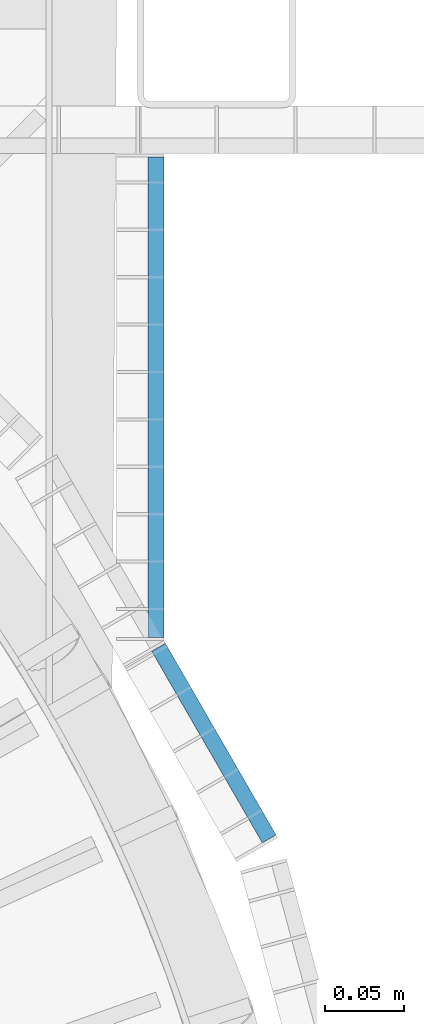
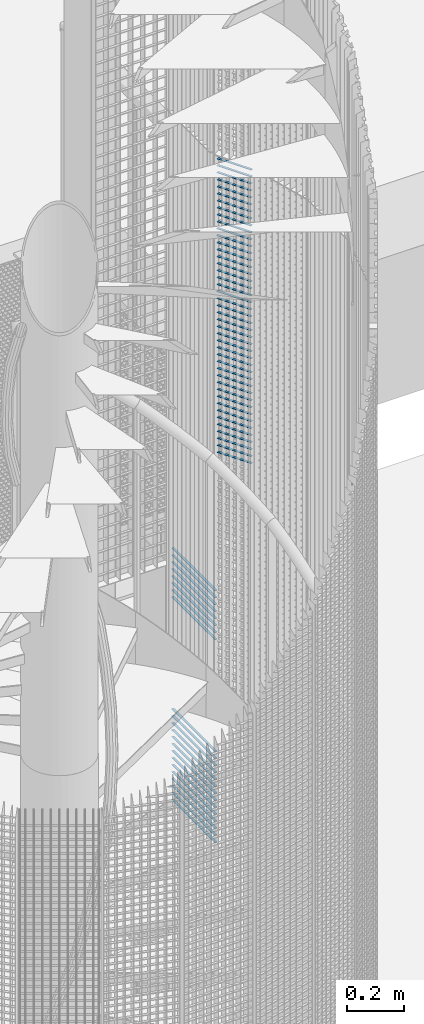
# One storey, part 286 of 1183: 65 beams, 2 elements without a shape of their own.
"""IFC2X3 building model written with IfcOpenShell, lengths in millimetres."""

import ifcopenshell
import ifcopenshell.guid

model = None  # the IFC model being written
_history = None  # IfcOwnerHistory: only IFC2X3 demands one
_inside = {}  # id of a spatial element -> (the spatial element, [elements in it])
_under = {}  # id of a project, library or spatial element -> (it, [spatial elements below it])
_declared = {}  # id of a project -> (the project, [libraries it declares])
_typed = {}  # id of a type object -> (the type object, [elements of that type])
_made_of = {}  # id of a material, layer set ... -> (it, [elements and type objects made of it])


def new_model(schema):
    """Start an empty IFC model of exactly this schema.

    Asked for "IFC4X3", IfcOpenShell would pick the latest addendum, in which some entities
    have other attributes; the version numbers below select the first issue.
    IFC2X3 requires an IfcOwnerHistory on every rooted entity: one is made here for all.
    """
    global model, _history
    if schema == "IFC4X3":
        model = ifcopenshell.file(schema_version=(4, 3, 0, 0))
    else:
        model = ifcopenshell.file(schema=schema)
    _inside.clear()
    _under.clear()
    _declared.clear()
    _typed.clear()
    _made_of.clear()
    _history = None
    if model.schema == "IFC2X3":
        org = make("IfcOrganization", Name="unknown")
        user = make(
            "IfcPersonAndOrganization",
            ThePerson=make("IfcPerson", FamilyName="unknown"),
            TheOrganization=org,
        )
        app = make(
            "IfcApplication",
            ApplicationDeveloper=org,
            Version="unknown",
            ApplicationFullName="unknown",
            ApplicationIdentifier="unknown",
        )
        _history = make(
            "IfcOwnerHistory",
            OwningUser=user,
            OwningApplication=app,
            ChangeAction="ADDED",
            CreationDate=0,
        )
    return model


def make(cls, **values):
    """One entity of the class cls with the attributes given. An attribute that is None is left unset."""
    return model.create_entity(
        cls, **{name: value for name, value in values.items() if value is not None}
    )


def rooted(cls, **values):
    """An entity with a GlobalId (a new one), such as an element, a storey or a relation."""
    return make(cls, GlobalId=ifcopenshell.guid.new(), OwnerHistory=_history, **values)


def si_unit(unit_type, name, prefix=None):
    """IfcSIUnit, for example si_unit("LENGTHUNIT", "METRE", prefix="MILLI")."""
    return make("IfcSIUnit", UnitType=unit_type, Prefix=prefix, Name=name)


def assignment(units):
    """IfcUnitAssignment: the units of a project."""
    return None if units is None else make("IfcUnitAssignment", Units=units)


def point(xyz):
    """IfcCartesianPoint."""
    return None if xyz is None else make("IfcCartesianPoint", Coordinates=xyz)


def direction(xyz):
    """IfcDirection."""
    return None if xyz is None else make("IfcDirection", DirectionRatios=xyz)


def frame(location, z_axis=None, x_axis=None):
    """IfcAxis2Placement3D, a coordinate frame: its origin and axes. An axis left out is left unset."""
    return make(
        "IfcAxis2Placement3D",
        Location=point(location),
        Axis=direction(z_axis),
        RefDirection=direction(x_axis),
    )


def frame_2d(location, x_axis=None):
    """IfcAxis2Placement2D, a coordinate frame in the plane: its origin and x axis."""
    return make(
        "IfcAxis2Placement2D", Location=point(location), RefDirection=direction(x_axis)
    )


def origin_with_axes():
    """The frame at (0, 0, 0) with the z axis (0, 0, 1) and the x axis (1, 0, 0) written out."""
    return frame((0.0, 0.0, 0.0), z_axis=(0.0, 0.0, 1.0), x_axis=(1.0, 0.0, 0.0))


def origin_2d_with_axis():
    """The frame at (0, 0) in the plane with the x axis (1, 0) written out."""
    return frame_2d((0.0, 0.0), x_axis=(1.0, 0.0))


def place(relative_to, where):
    """IfcLocalPlacement: puts the frame where relative to a parent placement (None: the world)."""
    return make(
        "IfcLocalPlacement", PlacementRelTo=relative_to, RelativePlacement=where
    )


def context(
    kind, dimensions, precision=None, world=None, true_north=None, identifier=None
):
    """IfcGeometricRepresentationContext, for example the 3D "Model" context."""
    return make(
        "IfcGeometricRepresentationContext",
        ContextIdentifier=identifier,
        ContextType=kind,
        CoordinateSpaceDimension=dimensions,
        Precision=precision,
        WorldCoordinateSystem=world,
        TrueNorth=true_north,
    )


def subcontext(parent, identifier, kind, view, scale=None):
    """IfcGeometricRepresentationSubContext, for example "Body" below "Model"."""
    return make(
        "IfcGeometricRepresentationSubContext",
        ContextIdentifier=identifier,
        ContextType=kind,
        ParentContext=parent,
        TargetScale=scale,
        TargetView=view,
    )


def project(units=None, contexts=None):
    """IfcProject with its units and contexts."""
    return rooted(
        "IfcProject",
        Name="project",
        RepresentationContexts=contexts,
        UnitsInContext=assignment(units),
    )


def spatial(cls, under=None, at=None, **own):
    """A site, building, storey or space (cls), placed at a placement, below another one or the project."""
    s = rooted(cls, ObjectPlacement=at, **own)
    if under is not None:
        _under.setdefault(under.id(), (under, []))[1].append(s)
    return s


def profile(cls, at=None, kind="AREA", **sizes):
    """A parametric profile (cls). Its sizes go by their IFC names, for example OverallWidth=200.0."""
    return make(cls, ProfileType=kind, Position=at, **sizes)


def rectangle(**sizes):
    """IfcRectangleProfileDef."""
    return profile("IfcRectangleProfileDef", **sizes)


def extrude(swept, where, along, depth):
    """IfcExtrudedAreaSolid: the profile swept, set in the frame where, extruded along a direction by depth."""
    return make(
        "IfcExtrudedAreaSolid",
        SweptArea=swept,
        Position=where,
        ExtrudedDirection=direction(along),
        Depth=depth,
    )


def shape(context_of_items, identifier, shape_type, items):
    """IfcShapeRepresentation: the items that make up one representation, for example the "Body"."""
    return make(
        "IfcShapeRepresentation",
        ContextOfItems=context_of_items,
        RepresentationIdentifier=identifier,
        RepresentationType=shape_type,
        Items=items,
    )


def material(Name=None, Category=None):
    """IfcMaterial."""
    return make("IfcMaterial", Name=Name, Category=Category)


def made_of(thing, what):
    """Note that an element or type object is made of a material, layer set ...; save() writes the relation."""
    if what is not None:
        _made_of.setdefault(what.id(), (what, []))[1].append(thing)
    return thing


def type_object(cls, material=None, **own):
    """A type object (cls), such as IfcWallType, which elements share."""
    return made_of(rooted(cls, **own), material)


def element(
    cls,
    number,
    at=None,
    inside=None,
    cuts=None,
    type_object=None,
    material=None,
    context=None,
    identifier="Body",
    shape_type=None,
    held_by="IfcProductDefinitionShape",
    body=None,
    shapes=None,
    **own,
):
    """One element of the class cls, such as IfcWall. Its Tag is "e" and its number.

    at: its placement. inside: the storey or other place that contains it. cuts: it is an
    opening in that element (IfcRelVoidsElement). A single representation is given by context,
    identifier, shape_type and body (its items); several are given by shapes. held_by: the class
    of the entity that holds the representations. save() writes the other relations.
    """
    e = rooted(cls, Tag="e%d" % number, ObjectPlacement=at, **own)
    if body is not None:
        shapes = [shape(context, identifier, shape_type, body)]
    if shapes is not None:
        e.Representation = make(held_by, Representations=shapes)
    if inside is not None:
        _inside.setdefault(inside.id(), (inside, []))[1].append(e)
    if cuts is not None:
        rooted(
            "IfcRelVoidsElement", RelatingBuildingElement=cuts, RelatedOpeningElement=e
        )
    if type_object is not None:
        _typed.setdefault(type_object.id(), (type_object, []))[1].append(e)
    return made_of(e, material)


def aggregate(whole, parts):
    """IfcRelAggregates: a whole, such as a stair, and the parts it consists of."""
    return rooted("IfcRelAggregates", RelatingObject=whole, RelatedObjects=parts)


def save(model, path):
    """Write the relations noted so far, then the file.

    IfcRelAggregates (storeys below a building ...), IfcRelContainedInSpatialStructure (elements
    in a storey), IfcRelDefinesByType, IfcRelAssociatesMaterial and IfcRelDeclares: one each for
    every whole, place, type object, material and project.
    """
    for whole, parts in _under.values():
        aggregate(whole, parts)
    for where, things in _inside.values():
        rooted(
            "IfcRelContainedInSpatialStructure",
            RelatedElements=things,
            RelatingStructure=where,
        )
    for kind, things in _typed.values():
        rooted("IfcRelDefinesByType", RelatedObjects=things, RelatingType=kind)
    for what, things in _made_of.values():
        rooted("IfcRelAssociatesMaterial", RelatedObjects=things, RelatingMaterial=what)
    for by, libraries in _declared.values():
        rooted("IfcRelDeclares", RelatingContext=by, RelatedDefinitions=libraries)
    model.write(path)


model = new_model("IFC2X3")

# Units and contexts
model_context = context("Model", 3, precision=1e-05, world=origin_with_axes())
body_context = subcontext(model_context, "Body", "Model", "MODEL_VIEW")
ifc_project = project(units=[si_unit("LENGTHUNIT", "METRE", prefix="MILLI"), si_unit("AREAUNIT", "SQUARE_METRE"), si_unit("VOLUMEUNIT", "CUBIC_METRE"), si_unit("MASSUNIT", "GRAM", prefix="KILO"), si_unit("TIMEUNIT", "SECOND"), si_unit("PLANEANGLEUNIT", "RADIAN"), si_unit("SOLIDANGLEUNIT", "STERADIAN"), si_unit("THERMODYNAMICTEMPERATUREUNIT", "DEGREE_CELSIUS"), si_unit("LUMINOUSINTENSITYUNIT", "LUMEN")], contexts=[model_context])

# Site, building, storey
site_placement = place(None, origin_with_axes())
site = spatial("IfcSite", under=ifc_project, at=site_placement, Name="Undefined", CompositionType="ELEMENT")
building_placement = place(site_placement, origin_with_axes())
building = spatial("IfcBuilding", under=site, at=building_placement, Name="Undefined", CompositionType="ELEMENT")
storey_placement = place(building_placement, origin_with_axes())
storey = spatial("IfcBuildingStorey", under=building, at=storey_placement, Name="Undefined", CompositionType="ELEMENT", Elevation=0.0)

# Assembly, beams
assembly_1_placement = place(storey_placement, origin_with_axes())
assembly_1 = element("IfcElementAssembly", 1, at=assembly_1_placement, inside=storey, Name="BORDURE", AssemblyPlace="NOTDEFINED", PredefinedType="NOTDEFINED")
ifc_material = material(Name="STEEL/S235JR")
beam_type = type_object("IfcBeamType", Name="PL2*10", PredefinedType="NOTDEFINED")
beam_1_placement = place(assembly_1_placement, frame((961.586915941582, 564.782669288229, 9420.0), z_axis=(1.0, 0.0, 0.0), x_axis=(0.0, 1.0, 0.0)))
beam_1 = element("IfcBeam", 2, at=beam_1_placement, type_object=beam_type, material=ifc_material, Name="ENTRETOISE", context=body_context, shape_type="SweptSolid", body=[
    extrude(rectangle(XDim=2.0, YDim=10.0, at=origin_2d_with_axis()), frame((303.999999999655, 0.0, 0.0), z_axis=(-1.0, 0.0, 0.0), x_axis=(0.0, -1.0, 0.0)), (0.0, 0.0, 1.0), 304.0),
])
beam_2_placement = place(assembly_1_placement, frame((961.586915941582, 564.782669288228, 9900.0), z_axis=(1.0, 0.0, 0.0), x_axis=(0.0, 1.0, 0.0)))
beam_2 = element("IfcBeam", 3, at=beam_2_placement, type_object=beam_type, material=ifc_material, Name="ENTRETOISE", context=body_context, shape_type="SweptSolid", body=[
    extrude(rectangle(XDim=2.0, YDim=10.0, at=origin_2d_with_axis()), frame((303.999999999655, 0.0, 0.0), z_axis=(-1.0, 0.0, 0.0), x_axis=(0.0, -1.0, 0.0)), (0.0, 0.0, 1.0), 304.0),
])
beam_3_placement = place(assembly_1_placement, frame((961.586915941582, 564.782669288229, 9390.0), z_axis=(1.0, 0.0, 0.0), x_axis=(0.0, 1.0, 0.0)))
beam_3 = element("IfcBeam", 4, at=beam_3_placement, type_object=beam_type, material=ifc_material, Name="ENTRETOISE", context=body_context, shape_type="SweptSolid", body=[
    extrude(rectangle(XDim=2.0, YDim=10.0, at=origin_2d_with_axis()), frame((303.999999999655, 0.0, 0.0), z_axis=(-1.0, 0.0, 0.0), x_axis=(0.0, -1.0, 0.0)), (0.0, 0.0, 1.0), 304.0),
])
beam_4_placement = place(assembly_1_placement, frame((961.586915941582, 564.782669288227, 9930.0), z_axis=(1.0, 0.0, 0.0), x_axis=(0.0, 1.0, 0.0)))
beam_4 = element("IfcBeam", 5, at=beam_4_placement, type_object=beam_type, material=ifc_material, Name="ENTRETOISE", context=body_context, shape_type="SweptSolid", body=[
    extrude(rectangle(XDim=2.0, YDim=10.0, at=origin_2d_with_axis()), frame((303.999999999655, 0.0, 0.0), z_axis=(-1.0, 0.0, 0.0), x_axis=(0.0, -1.0, 0.0)), (0.0, 0.0, 1.0), 304.0),
])
beam_5_placement = place(assembly_1_placement, frame((961.586915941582, 564.782669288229, 9360.0), z_axis=(1.0, 0.0, 0.0), x_axis=(0.0, 1.0, 0.0)))
beam_5 = element("IfcBeam", 6, at=beam_5_placement, type_object=beam_type, material=ifc_material, Name="ENTRETOISE", context=body_context, shape_type="SweptSolid", body=[
    extrude(rectangle(XDim=2.0, YDim=10.0, at=origin_2d_with_axis()), frame((303.999999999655, 0.0, 0.0), z_axis=(-1.0, 0.0, 0.0), x_axis=(0.0, -1.0, 0.0)), (0.0, 0.0, 1.0), 304.0),
])
beam_6_placement = place(assembly_1_placement, frame((961.586915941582, 564.782669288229, 9330.0), z_axis=(1.0, 0.0, 0.0), x_axis=(0.0, 1.0, 0.0)))
beam_6 = element("IfcBeam", 7, at=beam_6_placement, type_object=beam_type, material=ifc_material, Name="ENTRETOISE", context=body_context, shape_type="SweptSolid", body=[
    extrude(rectangle(XDim=2.0, YDim=10.0, at=origin_2d_with_axis()), frame((303.999999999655, 0.0, 0.0), z_axis=(-1.0, 0.0, 0.0), x_axis=(0.0, -1.0, 0.0)), (0.0, 0.0, 1.0), 304.0),
])
beam_7_placement = place(assembly_1_placement, frame((961.586915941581, 564.782669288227, 9960.0), z_axis=(1.0, 0.0, 0.0), x_axis=(0.0, 1.0, 0.0)))
beam_7 = element("IfcBeam", 8, at=beam_7_placement, type_object=beam_type, material=ifc_material, Name="ENTRETOISE", context=body_context, shape_type="SweptSolid", body=[
    extrude(rectangle(XDim=2.0, YDim=10.0, at=origin_2d_with_axis()), frame((303.999999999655, 0.0, 0.0), z_axis=(-1.0, 0.0, 0.0), x_axis=(0.0, -1.0, 0.0)), (0.0, 0.0, 1.0), 304.0),
])
beam_8_placement = place(assembly_1_placement, frame((961.586915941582, 564.782669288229, 9300.0), z_axis=(1.0, 0.0, 0.0), x_axis=(0.0, 1.0, 0.0)))
beam_8 = element("IfcBeam", 9, at=beam_8_placement, type_object=beam_type, material=ifc_material, Name="ENTRETOISE", context=body_context, shape_type="SweptSolid", body=[
    extrude(rectangle(XDim=2.0, YDim=10.0, at=origin_2d_with_axis()), frame((303.999999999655, 0.0, 0.0), z_axis=(-1.0, 0.0, 0.0), x_axis=(0.0, -1.0, 0.0)), (0.0, 0.0, 1.0), 304.0),
])
beam_9_placement = place(assembly_1_placement, frame((961.586915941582, 564.78266928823, 9270.0), z_axis=(1.0, 0.0, 0.0), x_axis=(0.0, 1.0, 0.0)))
beam_9 = element("IfcBeam", 10, at=beam_9_placement, type_object=beam_type, material=ifc_material, Name="ENTRETOISE", context=body_context, shape_type="SweptSolid", body=[
    extrude(rectangle(XDim=2.0, YDim=10.0, at=origin_2d_with_axis()), frame((303.999999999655, 0.0, 0.0), z_axis=(-1.0, 0.0, 0.0), x_axis=(0.0, -1.0, 0.0)), (0.0, 0.0, 1.0), 304.0),
])
beam_10_placement = place(assembly_1_placement, frame((961.586915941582, 564.782669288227, 9990.0), z_axis=(1.0, 0.0, 0.0), x_axis=(0.0, 1.0, 0.0)))
beam_10 = element("IfcBeam", 11, at=beam_10_placement, type_object=beam_type, material=ifc_material, Name="ENTRETOISE", context=body_context, shape_type="SweptSolid", body=[
    extrude(rectangle(XDim=2.0, YDim=10.0, at=origin_2d_with_axis()), frame((303.999999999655, 0.0, 0.0), z_axis=(-1.0, 0.0, 0.0), x_axis=(0.0, -1.0, 0.0)), (0.0, 0.0, 1.0), 304.0),
])
beam_11_placement = place(assembly_1_placement, frame((961.586915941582, 564.78266928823, 9240.0), z_axis=(1.0, 0.0, 0.0), x_axis=(0.0, 1.0, 0.0)))
beam_11 = element("IfcBeam", 12, at=beam_11_placement, type_object=beam_type, material=ifc_material, Name="ENTRETOISE", context=body_context, shape_type="SweptSolid", body=[
    extrude(rectangle(XDim=2.0, YDim=10.0, at=origin_2d_with_axis()), frame((303.999999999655, 0.0, 0.0), z_axis=(-1.0, 0.0, 0.0), x_axis=(0.0, -1.0, 0.0)), (0.0, 0.0, 1.0), 304.0),
])
beam_12_placement = place(assembly_1_placement, frame((961.586915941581, 564.782669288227, 10020.0), z_axis=(1.0, 0.0, 0.0), x_axis=(0.0, 1.0, 0.0)))
beam_12 = element("IfcBeam", 13, at=beam_12_placement, type_object=beam_type, material=ifc_material, Name="ENTRETOISE", context=body_context, shape_type="SweptSolid", body=[
    extrude(rectangle(XDim=2.0, YDim=10.0, at=origin_2d_with_axis()), frame((303.999999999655, 0.0, 0.0), z_axis=(-1.0, 0.0, 0.0), x_axis=(0.0, -1.0, 0.0)), (0.0, 0.0, 1.0), 304.0),
])
beam_13_placement = place(assembly_1_placement, frame((961.586915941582, 564.78266928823, 9210.0), z_axis=(1.0, 0.0, 0.0), x_axis=(0.0, 1.0, 0.0)))
beam_13 = element("IfcBeam", 14, at=beam_13_placement, type_object=beam_type, material=ifc_material, Name="ENTRETOISE", context=body_context, shape_type="SweptSolid", body=[
    extrude(rectangle(XDim=2.0, YDim=10.0, at=origin_2d_with_axis()), frame((303.999999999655, 0.0, 0.0), z_axis=(-1.0, 0.0, 0.0), x_axis=(0.0, -1.0, 0.0)), (0.0, 0.0, 1.0), 304.0),
])
beam_14_placement = place(assembly_1_placement, frame((961.586915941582, 564.78266928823, 9180.0), z_axis=(1.0, 0.0, 0.0), x_axis=(0.0, 1.0, 0.0)))
beam_14 = element("IfcBeam", 15, at=beam_14_placement, type_object=beam_type, material=ifc_material, Name="ENTRETOISE", context=body_context, shape_type="SweptSolid", body=[
    extrude(rectangle(XDim=2.0, YDim=10.0, at=origin_2d_with_axis()), frame((303.999999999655, 0.0, 0.0), z_axis=(-1.0, 0.0, 0.0), x_axis=(0.0, -1.0, 0.0)), (0.0, 0.0, 1.0), 304.0),
])
beam_15_placement = place(assembly_1_placement, frame((961.586915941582, 564.782669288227, 10050.0), z_axis=(1.0, 0.0, 0.0), x_axis=(0.0, 1.0, 0.0)))
beam_15 = element("IfcBeam", 16, at=beam_15_placement, type_object=beam_type, material=ifc_material, Name="ENTRETOISE", context=body_context, shape_type="SweptSolid", body=[
    extrude(rectangle(XDim=2.0, YDim=10.0, at=origin_2d_with_axis()), frame((303.999999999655, 0.0, 0.0), z_axis=(-1.0, 0.0, 0.0), x_axis=(0.0, -1.0, 0.0)), (0.0, 0.0, 1.0), 304.0),
])
beam_16_placement = place(assembly_1_placement, frame((961.586915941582, 564.78266928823, 9150.0), z_axis=(1.0, 0.0, 0.0), x_axis=(0.0, 1.0, 0.0)))
beam_16 = element("IfcBeam", 17, at=beam_16_placement, type_object=beam_type, material=ifc_material, Name="ENTRETOISE", context=body_context, shape_type="SweptSolid", body=[
    extrude(rectangle(XDim=2.0, YDim=10.0, at=origin_2d_with_axis()), frame((303.999999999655, 0.0, 0.0), z_axis=(-1.0, 0.0, 0.0), x_axis=(0.0, -1.0, 0.0)), (0.0, 0.0, 1.0), 304.0),
])
beam_17_placement = place(assembly_1_placement, frame((961.586915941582, 564.78266928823, 9120.0), z_axis=(1.0, 0.0, 0.0), x_axis=(0.0, 1.0, 0.0)))
beam_17 = element("IfcBeam", 18, at=beam_17_placement, type_object=beam_type, material=ifc_material, Name="ENTRETOISE", context=body_context, shape_type="SweptSolid", body=[
    extrude(rectangle(XDim=2.0, YDim=10.0, at=origin_2d_with_axis()), frame((303.999999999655, 0.0, 0.0), z_axis=(-1.0, 0.0, 0.0), x_axis=(0.0, -1.0, 0.0)), (0.0, 0.0, 1.0), 304.0),
])
beam_18_placement = place(assembly_1_placement, frame((961.586915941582, 564.782669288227, 10080.0), z_axis=(1.0, 0.0, 0.0), x_axis=(0.0, 1.0, 0.0)))
beam_18 = element("IfcBeam", 19, at=beam_18_placement, type_object=beam_type, material=ifc_material, Name="ENTRETOISE", context=body_context, shape_type="SweptSolid", body=[
    extrude(rectangle(XDim=2.0, YDim=10.0, at=origin_2d_with_axis()), frame((303.999999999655, 0.0, 0.0), z_axis=(-1.0, 0.0, 0.0), x_axis=(0.0, -1.0, 0.0)), (0.0, 0.0, 1.0), 304.0),
])
beam_19_placement = place(assembly_1_placement, frame((961.586915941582, 564.78266928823, 9090.0), z_axis=(1.0, 0.0, 0.0), x_axis=(0.0, 1.0, 0.0)))
beam_19 = element("IfcBeam", 20, at=beam_19_placement, type_object=beam_type, material=ifc_material, Name="ENTRETOISE", context=body_context, shape_type="SweptSolid", body=[
    extrude(rectangle(XDim=2.0, YDim=10.0, at=origin_2d_with_axis()), frame((303.999999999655, 0.0, 0.0), z_axis=(-1.0, 0.0, 0.0), x_axis=(0.0, -1.0, 0.0)), (0.0, 0.0, 1.0), 304.0),
])
beam_20_placement = place(assembly_1_placement, frame((961.586915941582, 564.78266928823, 9060.0), z_axis=(1.0, 0.0, 0.0), x_axis=(0.0, 1.0, 0.0)))
beam_20 = element("IfcBeam", 21, at=beam_20_placement, type_object=beam_type, material=ifc_material, Name="ENTRETOISE", context=body_context, shape_type="SweptSolid", body=[
    extrude(rectangle(XDim=2.0, YDim=10.0, at=origin_2d_with_axis()), frame((303.999999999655, 0.0, 0.0), z_axis=(-1.0, 0.0, 0.0), x_axis=(0.0, -1.0, 0.0)), (0.0, 0.0, 1.0), 304.0),
])
beam_21_placement = place(assembly_1_placement, frame((961.586915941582, 564.782669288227, 10110.0), z_axis=(1.0, 0.0, 0.0), x_axis=(0.0, 1.0, 0.0)))
beam_21 = element("IfcBeam", 22, at=beam_21_placement, type_object=beam_type, material=ifc_material, Name="ENTRETOISE", context=body_context, shape_type="SweptSolid", body=[
    extrude(rectangle(XDim=2.0, YDim=10.0, at=origin_2d_with_axis()), frame((303.999999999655, 0.0, 0.0), z_axis=(-1.0, 0.0, 0.0), x_axis=(0.0, -1.0, 0.0)), (0.0, 0.0, 1.0), 304.0),
])
beam_22_placement = place(assembly_1_placement, frame((961.586915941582, 564.782669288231, 9030.0), z_axis=(1.0, 0.0, 0.0), x_axis=(0.0, 1.0, 0.0)))
beam_22 = element("IfcBeam", 23, at=beam_22_placement, type_object=beam_type, material=ifc_material, Name="ENTRETOISE", context=body_context, shape_type="SweptSolid", body=[
    extrude(rectangle(XDim=2.0, YDim=10.0, at=origin_2d_with_axis()), frame((303.999999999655, 0.0, 0.0), z_axis=(-1.0, 0.0, 0.0), x_axis=(0.0, -1.0, 0.0)), (0.0, 0.0, 1.0), 304.0),
])
aggregate(assembly_1, [beam_1, beam_2, beam_3, beam_4, beam_5, beam_6, beam_7, beam_8, beam_9, beam_10, beam_11, beam_12, beam_13, beam_14, beam_15, beam_16, beam_17, beam_18, beam_19, beam_20, beam_21, beam_22])

assembly_2_placement = place(storey_placement, origin_with_axes())
assembly_2 = element("IfcElementAssembly", 24, at=assembly_2_placement, inside=storey, Name="BORDURE", AssemblyPlace="NOTDEFINED", PredefinedType="NOTDEFINED")
beam_23_placement = place(assembly_2_placement, frame((1033.29994283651, 437.231999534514, 11970.0), z_axis=(0.866030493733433, 0.499991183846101, 0.0), x_axis=(-0.499991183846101, 0.866030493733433, 0.0)))
beam_23 = element("IfcBeam", 25, at=beam_23_placement, type_object=beam_type, material=ifc_material, Name="ENTRETOISE", context=body_context, shape_type="SweptSolid", body=[
    extrude(rectangle(XDim=2.0, YDim=10.0, at=origin_2d_with_axis()), frame((140.102470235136, 0.0, 0.0), z_axis=(-1.0, 0.0, 0.0), x_axis=(0.0, -1.0, 0.0)), (0.0, 0.0, 1.0), 140.1),
])
beam_24_placement = place(assembly_2_placement, frame((1033.29994283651, 437.231999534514, 11940.0), z_axis=(0.866030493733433, 0.499991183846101, 0.0), x_axis=(-0.499991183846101, 0.866030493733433, 0.0)))
beam_24 = element("IfcBeam", 26, at=beam_24_placement, type_object=beam_type, material=ifc_material, Name="ENTRETOISE", context=body_context, shape_type="SweptSolid", body=[
    extrude(rectangle(XDim=2.0, YDim=10.0, at=origin_2d_with_axis()), frame((140.102470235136, 0.0, 0.0), z_axis=(-1.0, 0.0, 0.0), x_axis=(0.0, -1.0, 0.0)), (0.0, 0.0, 1.0), 140.1),
])
beam_25_placement = place(assembly_2_placement, frame((1033.29994283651, 437.231999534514, 11910.0), z_axis=(0.866030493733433, 0.499991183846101, 0.0), x_axis=(-0.499991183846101, 0.866030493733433, 0.0)))
beam_25 = element("IfcBeam", 27, at=beam_25_placement, type_object=beam_type, material=ifc_material, Name="ENTRETOISE", context=body_context, shape_type="SweptSolid", body=[
    extrude(rectangle(XDim=2.0, YDim=10.0, at=origin_2d_with_axis()), frame((140.102470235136, 0.0, 0.0), z_axis=(-1.0, 0.0, 0.0), x_axis=(0.0, -1.0, 0.0)), (0.0, 0.0, 1.0), 140.1),
])
beam_26_placement = place(assembly_2_placement, frame((1033.29994283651, 437.231999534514, 11880.0), z_axis=(0.866030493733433, 0.499991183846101, 0.0), x_axis=(-0.499991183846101, 0.866030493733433, 0.0)))
beam_26 = element("IfcBeam", 28, at=beam_26_placement, type_object=beam_type, material=ifc_material, Name="ENTRETOISE", context=body_context, shape_type="SweptSolid", body=[
    extrude(rectangle(XDim=2.0, YDim=10.0, at=origin_2d_with_axis()), frame((140.102470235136, 0.0, 0.0), z_axis=(-1.0, 0.0, 0.0), x_axis=(0.0, -1.0, 0.0)), (0.0, 0.0, 1.0), 140.1),
])
beam_27_placement = place(assembly_2_placement, frame((1033.29994283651, 437.231999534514, 11850.0), z_axis=(0.866030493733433, 0.499991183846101, 0.0), x_axis=(-0.499991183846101, 0.866030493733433, 0.0)))
beam_27 = element("IfcBeam", 29, at=beam_27_placement, type_object=beam_type, material=ifc_material, Name="ENTRETOISE", context=body_context, shape_type="SweptSolid", body=[
    extrude(rectangle(XDim=2.0, YDim=10.0, at=origin_2d_with_axis()), frame((140.102470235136, 0.0, 0.0), z_axis=(-1.0, 0.0, 0.0), x_axis=(0.0, -1.0, 0.0)), (0.0, 0.0, 1.0), 140.1),
])
beam_28_placement = place(assembly_2_placement, frame((1033.29994283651, 437.231999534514, 11820.0), z_axis=(0.866030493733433, 0.499991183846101, 0.0), x_axis=(-0.499991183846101, 0.866030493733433, 0.0)))
beam_28 = element("IfcBeam", 30, at=beam_28_placement, type_object=beam_type, material=ifc_material, Name="ENTRETOISE", context=body_context, shape_type="SweptSolid", body=[
    extrude(rectangle(XDim=2.0, YDim=10.0, at=origin_2d_with_axis()), frame((140.102470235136, 0.0, 0.0), z_axis=(-1.0, 0.0, 0.0), x_axis=(0.0, -1.0, 0.0)), (0.0, 0.0, 1.0), 140.1),
])
beam_29_placement = place(assembly_2_placement, frame((1033.29994283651, 437.231999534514, 11790.0), z_axis=(0.866030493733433, 0.499991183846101, 0.0), x_axis=(-0.499991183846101, 0.866030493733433, 0.0)))
beam_29 = element("IfcBeam", 31, at=beam_29_placement, type_object=beam_type, material=ifc_material, Name="ENTRETOISE", context=body_context, shape_type="SweptSolid", body=[
    extrude(rectangle(XDim=2.0, YDim=10.0, at=origin_2d_with_axis()), frame((140.102470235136, 0.0, 0.0), z_axis=(-1.0, 0.0, 0.0), x_axis=(0.0, -1.0, 0.0)), (0.0, 0.0, 1.0), 140.1),
])
beam_30_placement = place(assembly_2_placement, frame((1033.29994283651, 437.231999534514, 11760.0), z_axis=(0.866030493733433, 0.499991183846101, 0.0), x_axis=(-0.499991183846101, 0.866030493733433, 0.0)))
beam_30 = element("IfcBeam", 32, at=beam_30_placement, type_object=beam_type, material=ifc_material, Name="ENTRETOISE", context=body_context, shape_type="SweptSolid", body=[
    extrude(rectangle(XDim=2.0, YDim=10.0, at=origin_2d_with_axis()), frame((140.102470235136, 0.0, 0.0), z_axis=(-1.0, 0.0, 0.0), x_axis=(0.0, -1.0, 0.0)), (0.0, 0.0, 1.0), 140.1),
])
beam_31_placement = place(assembly_2_placement, frame((1033.29994283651, 437.231999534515, 11730.0), z_axis=(0.866030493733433, 0.499991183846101, 0.0), x_axis=(-0.499991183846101, 0.866030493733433, 0.0)))
beam_31 = element("IfcBeam", 33, at=beam_31_placement, type_object=beam_type, material=ifc_material, Name="ENTRETOISE", context=body_context, shape_type="SweptSolid", body=[
    extrude(rectangle(XDim=2.0, YDim=10.0, at=origin_2d_with_axis()), frame((140.102470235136, 0.0, 0.0), z_axis=(-1.0, 0.0, 0.0), x_axis=(0.0, -1.0, 0.0)), (0.0, 0.0, 1.0), 140.1),
])
beam_32_placement = place(assembly_2_placement, frame((1033.29994283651, 437.231999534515, 11700.0), z_axis=(0.866030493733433, 0.499991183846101, 0.0), x_axis=(-0.499991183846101, 0.866030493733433, 0.0)))
beam_32 = element("IfcBeam", 34, at=beam_32_placement, type_object=beam_type, material=ifc_material, Name="ENTRETOISE", context=body_context, shape_type="SweptSolid", body=[
    extrude(rectangle(XDim=2.0, YDim=10.0, at=origin_2d_with_axis()), frame((140.102470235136, 0.0, 0.0), z_axis=(-1.0, 0.0, 0.0), x_axis=(0.0, -1.0, 0.0)), (0.0, 0.0, 1.0), 140.1),
])
beam_33_placement = place(assembly_2_placement, frame((1033.29994283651, 437.231999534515, 11670.0), z_axis=(0.866030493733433, 0.499991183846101, 0.0), x_axis=(-0.499991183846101, 0.866030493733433, 0.0)))
beam_33 = element("IfcBeam", 35, at=beam_33_placement, type_object=beam_type, material=ifc_material, Name="ENTRETOISE", context=body_context, shape_type="SweptSolid", body=[
    extrude(rectangle(XDim=2.0, YDim=10.0, at=origin_2d_with_axis()), frame((140.102470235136, 0.0, 0.0), z_axis=(-1.0, 0.0, 0.0), x_axis=(0.0, -1.0, 0.0)), (0.0, 0.0, 1.0), 140.1),
])
beam_34_placement = place(assembly_2_placement, frame((1033.29994283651, 437.231999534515, 11640.0), z_axis=(0.866030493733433, 0.499991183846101, 0.0), x_axis=(-0.499991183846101, 0.866030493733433, 0.0)))
beam_34 = element("IfcBeam", 36, at=beam_34_placement, type_object=beam_type, material=ifc_material, Name="ENTRETOISE", context=body_context, shape_type="SweptSolid", body=[
    extrude(rectangle(XDim=2.0, YDim=10.0, at=origin_2d_with_axis()), frame((140.102470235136, 0.0, 0.0), z_axis=(-1.0, 0.0, 0.0), x_axis=(0.0, -1.0, 0.0)), (0.0, 0.0, 1.0), 140.1),
])
beam_35_placement = place(assembly_2_placement, frame((1033.29994283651, 437.231999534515, 11610.0), z_axis=(0.866030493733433, 0.499991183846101, 0.0), x_axis=(-0.499991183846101, 0.866030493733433, 0.0)))
beam_35 = element("IfcBeam", 37, at=beam_35_placement, type_object=beam_type, material=ifc_material, Name="ENTRETOISE", context=body_context, shape_type="SweptSolid", body=[
    extrude(rectangle(XDim=2.0, YDim=10.0, at=origin_2d_with_axis()), frame((140.102470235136, 0.0, 0.0), z_axis=(-1.0, 0.0, 0.0), x_axis=(0.0, -1.0, 0.0)), (0.0, 0.0, 1.0), 140.1),
])
beam_36_placement = place(assembly_2_placement, frame((1033.29994283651, 437.231999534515, 11580.0), z_axis=(0.866030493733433, 0.499991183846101, 0.0), x_axis=(-0.499991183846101, 0.866030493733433, 0.0)))
beam_36 = element("IfcBeam", 38, at=beam_36_placement, type_object=beam_type, material=ifc_material, Name="ENTRETOISE", context=body_context, shape_type="SweptSolid", body=[
    extrude(rectangle(XDim=2.0, YDim=10.0, at=origin_2d_with_axis()), frame((140.102470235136, 0.0, 0.0), z_axis=(-1.0, 0.0, 0.0), x_axis=(0.0, -1.0, 0.0)), (0.0, 0.0, 1.0), 140.1),
])
beam_37_placement = place(assembly_2_placement, frame((1033.29994283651, 437.231999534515, 11550.0), z_axis=(0.866030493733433, 0.499991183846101, 0.0), x_axis=(-0.499991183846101, 0.866030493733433, 0.0)))
beam_37 = element("IfcBeam", 39, at=beam_37_placement, type_object=beam_type, material=ifc_material, Name="ENTRETOISE", context=body_context, shape_type="SweptSolid", body=[
    extrude(rectangle(XDim=2.0, YDim=10.0, at=origin_2d_with_axis()), frame((140.102470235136, 0.0, 0.0), z_axis=(-1.0, 0.0, 0.0), x_axis=(0.0, -1.0, 0.0)), (0.0, 0.0, 1.0), 140.1),
])
beam_38_placement = place(assembly_2_placement, frame((1033.29994283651, 437.231999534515, 11520.0), z_axis=(0.866030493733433, 0.499991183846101, 0.0), x_axis=(-0.499991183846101, 0.866030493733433, 0.0)))
beam_38 = element("IfcBeam", 40, at=beam_38_placement, type_object=beam_type, material=ifc_material, Name="ENTRETOISE", context=body_context, shape_type="SweptSolid", body=[
    extrude(rectangle(XDim=2.0, YDim=10.0, at=origin_2d_with_axis()), frame((140.102470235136, 0.0, 0.0), z_axis=(-1.0, 0.0, 0.0), x_axis=(0.0, -1.0, 0.0)), (0.0, 0.0, 1.0), 140.1),
])
beam_39_placement = place(assembly_2_placement, frame((1033.29994283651, 437.231999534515, 11490.0), z_axis=(0.866030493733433, 0.499991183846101, 0.0), x_axis=(-0.499991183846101, 0.866030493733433, 0.0)))
beam_39 = element("IfcBeam", 41, at=beam_39_placement, type_object=beam_type, material=ifc_material, Name="ENTRETOISE", context=body_context, shape_type="SweptSolid", body=[
    extrude(rectangle(XDim=2.0, YDim=10.0, at=origin_2d_with_axis()), frame((140.102470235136, 0.0, 0.0), z_axis=(-1.0, 0.0, 0.0), x_axis=(0.0, -1.0, 0.0)), (0.0, 0.0, 1.0), 140.1),
])
beam_40_placement = place(assembly_2_placement, frame((1033.29994283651, 437.231999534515, 11460.0), z_axis=(0.866030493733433, 0.499991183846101, 0.0), x_axis=(-0.499991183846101, 0.866030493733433, 0.0)))
beam_40 = element("IfcBeam", 42, at=beam_40_placement, type_object=beam_type, material=ifc_material, Name="ENTRETOISE", context=body_context, shape_type="SweptSolid", body=[
    extrude(rectangle(XDim=2.0, YDim=10.0, at=origin_2d_with_axis()), frame((140.102470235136, 0.0, 0.0), z_axis=(-1.0, 0.0, 0.0), x_axis=(0.0, -1.0, 0.0)), (0.0, 0.0, 1.0), 140.1),
])
beam_41_placement = place(assembly_2_placement, frame((1033.29994283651, 437.231999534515, 11430.0), z_axis=(0.866030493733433, 0.499991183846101, 0.0), x_axis=(-0.499991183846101, 0.866030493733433, 0.0)))
beam_41 = element("IfcBeam", 43, at=beam_41_placement, type_object=beam_type, material=ifc_material, Name="ENTRETOISE", context=body_context, shape_type="SweptSolid", body=[
    extrude(rectangle(XDim=2.0, YDim=10.0, at=origin_2d_with_axis()), frame((140.102470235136, 0.0, 0.0), z_axis=(-1.0, 0.0, 0.0), x_axis=(0.0, -1.0, 0.0)), (0.0, 0.0, 1.0), 140.1),
])
beam_42_placement = place(assembly_2_placement, frame((1033.29994283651, 437.231999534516, 11400.0), z_axis=(0.866030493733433, 0.499991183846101, 0.0), x_axis=(-0.499991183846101, 0.866030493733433, 0.0)))
beam_42 = element("IfcBeam", 44, at=beam_42_placement, type_object=beam_type, material=ifc_material, Name="ENTRETOISE", context=body_context, shape_type="SweptSolid", body=[
    extrude(rectangle(XDim=2.0, YDim=10.0, at=origin_2d_with_axis()), frame((140.102470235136, 0.0, 0.0), z_axis=(-1.0, 0.0, 0.0), x_axis=(0.0, -1.0, 0.0)), (0.0, 0.0, 1.0), 140.1),
])
beam_43_placement = place(assembly_2_placement, frame((1033.29994283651, 437.231999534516, 11370.0), z_axis=(0.866030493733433, 0.499991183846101, 0.0), x_axis=(-0.499991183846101, 0.866030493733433, 0.0)))
beam_43 = element("IfcBeam", 45, at=beam_43_placement, type_object=beam_type, material=ifc_material, Name="ENTRETOISE", context=body_context, shape_type="SweptSolid", body=[
    extrude(rectangle(XDim=2.0, YDim=10.0, at=origin_2d_with_axis()), frame((140.102470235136, 0.0, 0.0), z_axis=(-1.0, 0.0, 0.0), x_axis=(0.0, -1.0, 0.0)), (0.0, 0.0, 1.0), 140.1),
])
beam_44_placement = place(assembly_2_placement, frame((1033.29994283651, 437.231999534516, 11340.0), z_axis=(0.866030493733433, 0.499991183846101, 0.0), x_axis=(-0.499991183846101, 0.866030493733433, 0.0)))
beam_44 = element("IfcBeam", 46, at=beam_44_placement, type_object=beam_type, material=ifc_material, Name="ENTRETOISE", context=body_context, shape_type="SweptSolid", body=[
    extrude(rectangle(XDim=2.0, YDim=10.0, at=origin_2d_with_axis()), frame((140.102470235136, 0.0, 0.0), z_axis=(-1.0, 0.0, 0.0), x_axis=(0.0, -1.0, 0.0)), (0.0, 0.0, 1.0), 140.1),
])
beam_45_placement = place(assembly_2_placement, frame((1033.29994283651, 437.231999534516, 11310.0), z_axis=(0.866030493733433, 0.499991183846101, 0.0), x_axis=(-0.499991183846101, 0.866030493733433, 0.0)))
beam_45 = element("IfcBeam", 47, at=beam_45_placement, type_object=beam_type, material=ifc_material, Name="ENTRETOISE", context=body_context, shape_type="SweptSolid", body=[
    extrude(rectangle(XDim=2.0, YDim=10.0, at=origin_2d_with_axis()), frame((140.102470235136, 0.0, 0.0), z_axis=(-1.0, 0.0, 0.0), x_axis=(0.0, -1.0, 0.0)), (0.0, 0.0, 1.0), 140.1),
])
beam_46_placement = place(assembly_2_placement, frame((1033.29994283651, 437.231999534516, 11280.0), z_axis=(0.866030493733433, 0.499991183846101, 0.0), x_axis=(-0.499991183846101, 0.866030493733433, 0.0)))
beam_46 = element("IfcBeam", 48, at=beam_46_placement, type_object=beam_type, material=ifc_material, Name="ENTRETOISE", context=body_context, shape_type="SweptSolid", body=[
    extrude(rectangle(XDim=2.0, YDim=10.0, at=origin_2d_with_axis()), frame((140.102470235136, 0.0, 0.0), z_axis=(-1.0, 0.0, 0.0), x_axis=(0.0, -1.0, 0.0)), (0.0, 0.0, 1.0), 140.1),
])
beam_47_placement = place(assembly_2_placement, frame((1033.29994283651, 437.231999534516, 11250.0), z_axis=(0.866030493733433, 0.499991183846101, 0.0), x_axis=(-0.499991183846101, 0.866030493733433, 0.0)))
beam_47 = element("IfcBeam", 49, at=beam_47_placement, type_object=beam_type, material=ifc_material, Name="ENTRETOISE", context=body_context, shape_type="SweptSolid", body=[
    extrude(rectangle(XDim=2.0, YDim=10.0, at=origin_2d_with_axis()), frame((140.102470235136, 0.0, 0.0), z_axis=(-1.0, 0.0, 0.0), x_axis=(0.0, -1.0, 0.0)), (0.0, 0.0, 1.0), 140.1),
])
beam_48_placement = place(assembly_2_placement, frame((1033.29994283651, 437.231999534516, 11220.0), z_axis=(0.866030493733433, 0.499991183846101, 0.0), x_axis=(-0.499991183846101, 0.866030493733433, 0.0)))
beam_48 = element("IfcBeam", 50, at=beam_48_placement, type_object=beam_type, material=ifc_material, Name="ENTRETOISE", context=body_context, shape_type="SweptSolid", body=[
    extrude(rectangle(XDim=2.0, YDim=10.0, at=origin_2d_with_axis()), frame((140.102470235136, 0.0, 0.0), z_axis=(-1.0, 0.0, 0.0), x_axis=(0.0, -1.0, 0.0)), (0.0, 0.0, 1.0), 140.1),
])
beam_49_placement = place(assembly_2_placement, frame((1033.29994283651, 437.231999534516, 11190.0), z_axis=(0.866030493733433, 0.499991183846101, 0.0), x_axis=(-0.499991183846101, 0.866030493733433, 0.0)))
beam_49 = element("IfcBeam", 51, at=beam_49_placement, type_object=beam_type, material=ifc_material, Name="ENTRETOISE", context=body_context, shape_type="SweptSolid", body=[
    extrude(rectangle(XDim=2.0, YDim=10.0, at=origin_2d_with_axis()), frame((140.102470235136, 0.0, 0.0), z_axis=(-1.0, 0.0, 0.0), x_axis=(0.0, -1.0, 0.0)), (0.0, 0.0, 1.0), 140.1),
])
beam_50_placement = place(assembly_2_placement, frame((1033.29994283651, 437.231999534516, 11160.0), z_axis=(0.866030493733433, 0.499991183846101, 0.0), x_axis=(-0.499991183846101, 0.866030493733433, 0.0)))
beam_50 = element("IfcBeam", 52, at=beam_50_placement, type_object=beam_type, material=ifc_material, Name="ENTRETOISE", context=body_context, shape_type="SweptSolid", body=[
    extrude(rectangle(XDim=2.0, YDim=10.0, at=origin_2d_with_axis()), frame((140.102470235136, 0.0, 0.0), z_axis=(-1.0, 0.0, 0.0), x_axis=(0.0, -1.0, 0.0)), (0.0, 0.0, 1.0), 140.1),
])
beam_51_placement = place(assembly_2_placement, frame((1033.29994283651, 437.231999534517, 11130.0), z_axis=(0.866030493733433, 0.499991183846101, 0.0), x_axis=(-0.499991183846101, 0.866030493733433, 0.0)))
beam_51 = element("IfcBeam", 53, at=beam_51_placement, type_object=beam_type, material=ifc_material, Name="ENTRETOISE", context=body_context, shape_type="SweptSolid", body=[
    extrude(rectangle(XDim=2.0, YDim=10.0, at=origin_2d_with_axis()), frame((140.102470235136, 0.0, 0.0), z_axis=(-1.0, 0.0, 0.0), x_axis=(0.0, -1.0, 0.0)), (0.0, 0.0, 1.0), 140.1),
])
beam_52_placement = place(assembly_2_placement, frame((1033.29994283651, 437.231999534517, 11100.0), z_axis=(0.866030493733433, 0.499991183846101, 0.0), x_axis=(-0.499991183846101, 0.866030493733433, 0.0)))
beam_52 = element("IfcBeam", 54, at=beam_52_placement, type_object=beam_type, material=ifc_material, Name="ENTRETOISE", context=body_context, shape_type="SweptSolid", body=[
    extrude(rectangle(XDim=2.0, YDim=10.0, at=origin_2d_with_axis()), frame((140.102470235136, 0.0, 0.0), z_axis=(-1.0, 0.0, 0.0), x_axis=(0.0, -1.0, 0.0)), (0.0, 0.0, 1.0), 140.1),
])
beam_53_placement = place(assembly_2_placement, frame((1033.29994283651, 437.231999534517, 11070.0), z_axis=(0.866030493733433, 0.499991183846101, 0.0), x_axis=(-0.499991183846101, 0.866030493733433, 0.0)))
beam_53 = element("IfcBeam", 55, at=beam_53_placement, type_object=beam_type, material=ifc_material, Name="ENTRETOISE", context=body_context, shape_type="SweptSolid", body=[
    extrude(rectangle(XDim=2.0, YDim=10.0, at=origin_2d_with_axis()), frame((140.102470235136, 0.0, 0.0), z_axis=(-1.0, 0.0, 0.0), x_axis=(0.0, -1.0, 0.0)), (0.0, 0.0, 1.0), 140.1),
])
beam_54_placement = place(assembly_2_placement, frame((1033.29994283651, 437.231999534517, 11040.0), z_axis=(0.866030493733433, 0.499991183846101, 0.0), x_axis=(-0.499991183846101, 0.866030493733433, 0.0)))
beam_54 = element("IfcBeam", 56, at=beam_54_placement, type_object=beam_type, material=ifc_material, Name="ENTRETOISE", context=body_context, shape_type="SweptSolid", body=[
    extrude(rectangle(XDim=2.0, YDim=10.0, at=origin_2d_with_axis()), frame((140.102470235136, 0.0, 0.0), z_axis=(-1.0, 0.0, 0.0), x_axis=(0.0, -1.0, 0.0)), (0.0, 0.0, 1.0), 140.1),
])
beam_55_placement = place(assembly_2_placement, frame((1033.29994283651, 437.231999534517, 11010.0), z_axis=(0.866030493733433, 0.499991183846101, 0.0), x_axis=(-0.499991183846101, 0.866030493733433, 0.0)))
beam_55 = element("IfcBeam", 57, at=beam_55_placement, type_object=beam_type, material=ifc_material, Name="ENTRETOISE", context=body_context, shape_type="SweptSolid", body=[
    extrude(rectangle(XDim=2.0, YDim=10.0, at=origin_2d_with_axis()), frame((140.102470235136, 0.0, 0.0), z_axis=(-1.0, 0.0, 0.0), x_axis=(0.0, -1.0, 0.0)), (0.0, 0.0, 1.0), 140.1),
])
beam_56_placement = place(assembly_2_placement, frame((1033.29994283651, 437.231999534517, 10980.0), z_axis=(0.866030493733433, 0.499991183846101, 0.0), x_axis=(-0.499991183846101, 0.866030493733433, 0.0)))
beam_56 = element("IfcBeam", 58, at=beam_56_placement, type_object=beam_type, material=ifc_material, Name="ENTRETOISE", context=body_context, shape_type="SweptSolid", body=[
    extrude(rectangle(XDim=2.0, YDim=10.0, at=origin_2d_with_axis()), frame((140.102470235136, 0.0, 0.0), z_axis=(-1.0, 0.0, 0.0), x_axis=(0.0, -1.0, 0.0)), (0.0, 0.0, 1.0), 140.1),
])
beam_57_placement = place(assembly_2_placement, frame((1033.29994283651, 437.231999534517, 10950.0), z_axis=(0.866030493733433, 0.499991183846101, 0.0), x_axis=(-0.499991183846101, 0.866030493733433, 0.0)))
beam_57 = element("IfcBeam", 59, at=beam_57_placement, type_object=beam_type, material=ifc_material, Name="ENTRETOISE", context=body_context, shape_type="SweptSolid", body=[
    extrude(rectangle(XDim=2.0, YDim=10.0, at=origin_2d_with_axis()), frame((140.102470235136, 0.0, 0.0), z_axis=(-1.0, 0.0, 0.0), x_axis=(0.0, -1.0, 0.0)), (0.0, 0.0, 1.0), 140.1),
])
beam_58_placement = place(assembly_2_placement, frame((1033.29994283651, 437.231999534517, 10920.0), z_axis=(0.866030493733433, 0.499991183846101, 0.0), x_axis=(-0.499991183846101, 0.866030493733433, 0.0)))
beam_58 = element("IfcBeam", 60, at=beam_58_placement, type_object=beam_type, material=ifc_material, Name="ENTRETOISE", context=body_context, shape_type="SweptSolid", body=[
    extrude(rectangle(XDim=2.0, YDim=10.0, at=origin_2d_with_axis()), frame((140.102470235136, 0.0, 0.0), z_axis=(-1.0, 0.0, 0.0), x_axis=(0.0, -1.0, 0.0)), (0.0, 0.0, 1.0), 140.1),
])
beam_59_placement = place(assembly_2_placement, frame((1033.29994283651, 437.231999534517, 10890.0), z_axis=(0.866030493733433, 0.499991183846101, 0.0), x_axis=(-0.499991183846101, 0.866030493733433, 0.0)))
beam_59 = element("IfcBeam", 61, at=beam_59_placement, type_object=beam_type, material=ifc_material, Name="ENTRETOISE", context=body_context, shape_type="SweptSolid", body=[
    extrude(rectangle(XDim=2.0, YDim=10.0, at=origin_2d_with_axis()), frame((140.102470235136, 0.0, 0.0), z_axis=(-1.0, 0.0, 0.0), x_axis=(0.0, -1.0, 0.0)), (0.0, 0.0, 1.0), 140.1),
])
beam_60_placement = place(assembly_2_placement, frame((1033.29994283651, 437.231999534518, 10860.0), z_axis=(0.866030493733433, 0.499991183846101, 0.0), x_axis=(-0.499991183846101, 0.866030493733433, 0.0)))
beam_60 = element("IfcBeam", 62, at=beam_60_placement, type_object=beam_type, material=ifc_material, Name="ENTRETOISE", context=body_context, shape_type="SweptSolid", body=[
    extrude(rectangle(XDim=2.0, YDim=10.0, at=origin_2d_with_axis()), frame((140.102470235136, 0.0, 0.0), z_axis=(-1.0, 0.0, 0.0), x_axis=(0.0, -1.0, 0.0)), (0.0, 0.0, 1.0), 140.1),
])
beam_61_placement = place(assembly_2_placement, frame((1033.29994283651, 437.231999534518, 10830.0), z_axis=(0.866030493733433, 0.499991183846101, 0.0), x_axis=(-0.499991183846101, 0.866030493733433, 0.0)))
beam_61 = element("IfcBeam", 63, at=beam_61_placement, type_object=beam_type, material=ifc_material, Name="ENTRETOISE", context=body_context, shape_type="SweptSolid", body=[
    extrude(rectangle(XDim=2.0, YDim=10.0, at=origin_2d_with_axis()), frame((140.102470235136, 0.0, 0.0), z_axis=(-1.0, 0.0, 0.0), x_axis=(0.0, -1.0, 0.0)), (0.0, 0.0, 1.0), 140.1),
])
beam_62_placement = place(assembly_2_placement, frame((1033.29994283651, 437.231999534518, 10800.0), z_axis=(0.866030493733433, 0.499991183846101, 0.0), x_axis=(-0.499991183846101, 0.866030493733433, 0.0)))
beam_62 = element("IfcBeam", 64, at=beam_62_placement, type_object=beam_type, material=ifc_material, Name="ENTRETOISE", context=body_context, shape_type="SweptSolid", body=[
    extrude(rectangle(XDim=2.0, YDim=10.0, at=origin_2d_with_axis()), frame((140.102470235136, 0.0, 0.0), z_axis=(-1.0, 0.0, 0.0), x_axis=(0.0, -1.0, 0.0)), (0.0, 0.0, 1.0), 140.1),
])
beam_63_placement = place(assembly_2_placement, frame((1033.29994283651, 437.231999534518, 10770.0), z_axis=(0.866030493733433, 0.499991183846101, 0.0), x_axis=(-0.499991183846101, 0.866030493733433, 0.0)))
beam_63 = element("IfcBeam", 65, at=beam_63_placement, type_object=beam_type, material=ifc_material, Name="ENTRETOISE", context=body_context, shape_type="SweptSolid", body=[
    extrude(rectangle(XDim=2.0, YDim=10.0, at=origin_2d_with_axis()), frame((140.102470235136, 0.0, 0.0), z_axis=(-1.0, 0.0, 0.0), x_axis=(0.0, -1.0, 0.0)), (0.0, 0.0, 1.0), 140.1),
])
beam_64_placement = place(assembly_2_placement, frame((1033.29994283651, 437.231999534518, 10740.0), z_axis=(0.866030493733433, 0.499991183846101, 0.0), x_axis=(-0.499991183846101, 0.866030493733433, 0.0)))
beam_64 = element("IfcBeam", 66, at=beam_64_placement, type_object=beam_type, material=ifc_material, Name="ENTRETOISE", context=body_context, shape_type="SweptSolid", body=[
    extrude(rectangle(XDim=2.0, YDim=10.0, at=origin_2d_with_axis()), frame((140.102470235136, 0.0, 0.0), z_axis=(-1.0, 0.0, 0.0), x_axis=(0.0, -1.0, 0.0)), (0.0, 0.0, 1.0), 140.1),
])
beam_65_placement = place(assembly_2_placement, frame((1033.29994283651, 437.231999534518, 10710.0), z_axis=(0.866030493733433, 0.499991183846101, 0.0), x_axis=(-0.499991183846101, 0.866030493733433, 0.0)))
beam_65 = element("IfcBeam", 67, at=beam_65_placement, type_object=beam_type, material=ifc_material, Name="ENTRETOISE", context=body_context, shape_type="SweptSolid", body=[
    extrude(rectangle(XDim=2.0, YDim=10.0, at=origin_2d_with_axis()), frame((140.102470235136, 0.0, 0.0), z_axis=(-1.0, 0.0, 0.0), x_axis=(0.0, -1.0, 0.0)), (0.0, 0.0, 1.0), 140.1),
])
aggregate(assembly_2, [beam_23, beam_24, beam_25, beam_26, beam_27, beam_28, beam_29, beam_30, beam_31, beam_32, beam_33, beam_34, beam_35, beam_36, beam_37, beam_38, beam_39, beam_40, beam_41, beam_42, beam_43, beam_44, beam_45, beam_46, beam_47, beam_48, beam_49, beam_50, beam_51, beam_52, beam_53, beam_54, beam_55, beam_56, beam_57, beam_58, beam_59, beam_60, beam_61, beam_62, beam_63, beam_64, beam_65])

save(model, "model.ifc")
